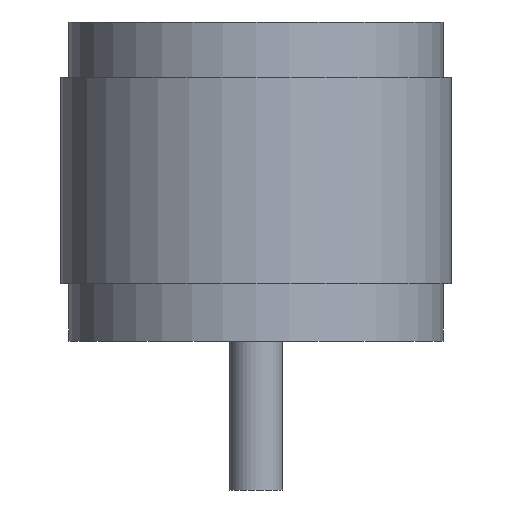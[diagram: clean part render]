
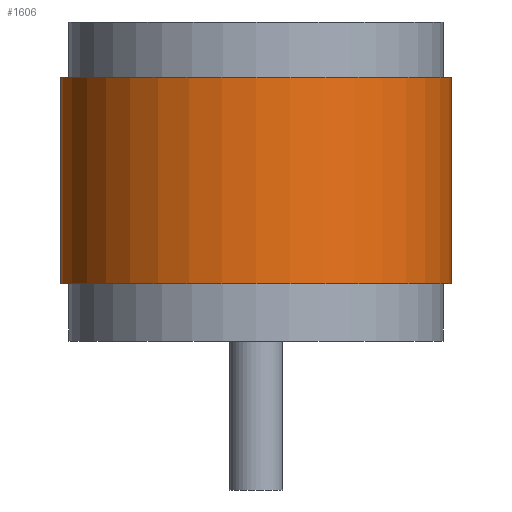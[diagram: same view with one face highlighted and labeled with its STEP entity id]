
A CAD part, left-side view. The second image highlights one B-rep face of the part: STEP entity #1606.
In plain terms, the highlighted cylindrical face has radius 9.2 mm (diameter 18.4 mm), a full revolution.
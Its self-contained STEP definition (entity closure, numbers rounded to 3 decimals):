
#1514=CARTESIAN_POINT('',(9.2,0.,12.4));
#1515=VERTEX_POINT('',#1514);
#1516=CARTESIAN_POINT('',(0.0,0.0,12.4));
#1517=DIRECTION('',(0.0,0.0,-1.0));
#1518=DIRECTION('',(-1.0,0.0,0.0));
#1519=AXIS2_PLACEMENT_3D('',#1516,#1517,#1518);
#1520=CIRCLE('',#1519,9.2);
#1521=EDGE_CURVE('',#1515,#1515,#1520,.T.);
#1580=CARTESIAN_POINT('',(-9.2,0.,2.7));
#1581=VERTEX_POINT('',#1580);
#1582=CARTESIAN_POINT('',(0.0,0.0,2.7));
#1583=DIRECTION('',(0.0,0.0,1.0));
#1584=DIRECTION('',(-1.0,0.0,0.0));
#1585=AXIS2_PLACEMENT_3D('',#1582,#1583,#1584);
#1586=CIRCLE('',#1585,9.2);
#1587=EDGE_CURVE('',#1581,#1581,#1586,.T.);
#1595=CARTESIAN_POINT('',(0.0,0.0,0.0));
#1596=DIRECTION('',(0.0,0.0,1.0));
#1597=DIRECTION('',(-1.0,0.0,0.0));
#1598=AXIS2_PLACEMENT_3D('',#1595,#1596,#1597);
#1599=CYLINDRICAL_SURFACE('',#1598,9.2);
#1600=ORIENTED_EDGE('',*,*,#1521,.T.);
#1601=EDGE_LOOP('',(#1600));
#1602=FACE_OUTER_BOUND('',#1601,.T.);
#1603=ORIENTED_EDGE('',*,*,#1587,.T.);
#1604=EDGE_LOOP('',(#1603));
#1605=FACE_BOUND('',#1604,.T.);
#1606=ADVANCED_FACE('',(#1602,#1605),#1599,.T.);
